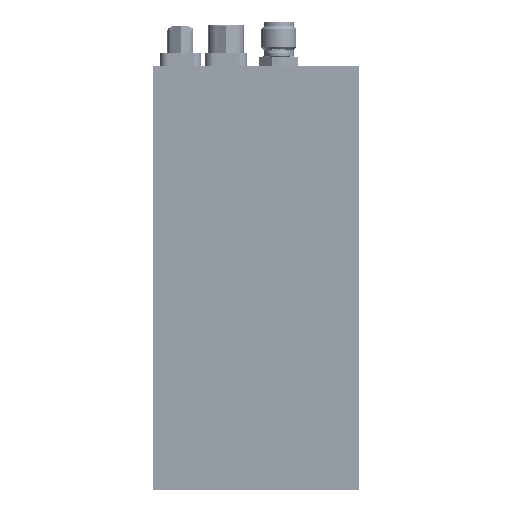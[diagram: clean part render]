
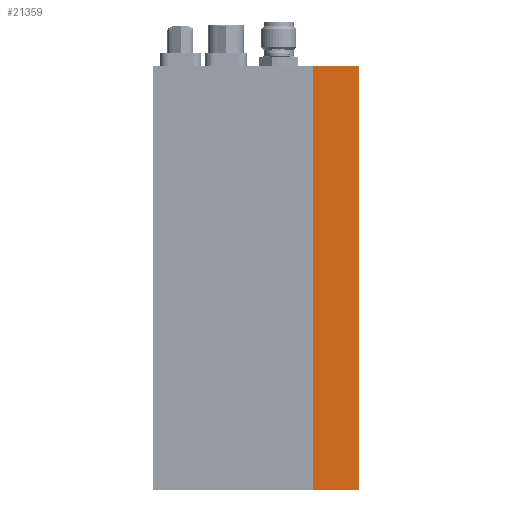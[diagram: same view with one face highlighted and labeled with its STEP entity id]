
A CAD part, left-side view. The second image highlights one B-rep face of the part: STEP entity #21359.
In plain terms, the highlighted planar face has unit normal (-1, 0, 0).
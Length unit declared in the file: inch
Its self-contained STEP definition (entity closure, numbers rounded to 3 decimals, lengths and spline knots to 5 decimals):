
#21359 = ADVANCED_FACE ( 'NONE', ( #97612 ), #114791, .F. ) ;
#38224 = LINE ( 'NONE', #47123, #38226 ) ;
#38226 = VECTOR ( 'NONE', #47127, 39.37008 ) ;
#38468 = LINE ( 'NONE', #48366, #38470 ) ;
#38470 = VECTOR ( 'NONE', #48371, 39.37008 ) ;
#38488 = VECTOR ( 'NONE', #48445, 39.37008 ) ;
#38497 = LINE ( 'NONE', #48440, #38488 ) ;
#47123 = CARTESIAN_POINT ( 'NONE',  ( -1., 0.328, -3. ) ) ;
#47127 = DIRECTION ( 'NONE',  ( 0., -1., 0. ) ) ;
#48366 = CARTESIAN_POINT ( 'NONE',  ( -1., 0., 0. ) ) ;
#48371 = DIRECTION ( 'NONE',  ( 0., 0., 1. ) ) ;
#48440 = CARTESIAN_POINT ( 'NONE',  ( -1., 0.328, 0. ) ) ;
#48445 = DIRECTION ( 'NONE',  ( 0., 0., 1. ) ) ;
#72590 = EDGE_CURVE ( 'NONE', #236987, #237069, #101834, .T. ) ;
#91884 = AXIS2_PLACEMENT_3D ( 'NONE', #114788, #114794, #114796 ) ;
#97612 = FACE_OUTER_BOUND ( 'NONE', #123262, .T. ) ;
#101834 = LINE ( 'NONE', #104766, #101837 ) ;
#101837 = VECTOR ( 'NONE', #104757, 39.37008 ) ;
#104757 = DIRECTION ( 'NONE',  ( 0., -1., 0. ) ) ;
#104766 = CARTESIAN_POINT ( 'NONE',  ( -1., 0.328, 0. ) ) ;
#114788 = CARTESIAN_POINT ( 'NONE',  ( -1., 0.328, 0. ) ) ;
#114791 = PLANE ( 'NONE',  #91884 ) ;
#114794 = DIRECTION ( 'NONE',  ( 1., 0., 0. ) ) ;
#114796 = DIRECTION ( 'NONE',  ( 0., 0., -1. ) ) ;
#123262 = EDGE_LOOP ( 'NONE', ( #156453, #156457, #156461, #156464 ) ) ;
#156453 = ORIENTED_EDGE ( 'NONE', *, *, #210824, .T. ) ;
#156457 = ORIENTED_EDGE ( 'NONE', *, *, #72590, .F. ) ;
#156461 = ORIENTED_EDGE ( 'NONE', *, *, #210828, .F. ) ;
#156464 = ORIENTED_EDGE ( 'NONE', *, *, #210746, .T. ) ;
#210746 = EDGE_CURVE ( 'NONE', #235985, #236484, #38224, .T. ) ;
#210824 = EDGE_CURVE ( 'NONE', #236484, #237069, #38468, .T. ) ;
#210828 = EDGE_CURVE ( 'NONE', #235985, #236987, #38497, .T. ) ;
#211991 = CARTESIAN_POINT ( 'NONE',  ( -1., 0.328, -3. ) ) ;
#212181 = CARTESIAN_POINT ( 'NONE',  ( -1., 0., -3. ) ) ;
#212237 = CARTESIAN_POINT ( 'NONE',  ( -1., 0.328, 0. ) ) ;
#212251 = CARTESIAN_POINT ( 'NONE',  ( -1., 0., 0. ) ) ;
#235985 = VERTEX_POINT ( 'NONE', #211991 ) ;
#236484 = VERTEX_POINT ( 'NONE', #212181 ) ;
#236987 = VERTEX_POINT ( 'NONE', #212237 ) ;
#237069 = VERTEX_POINT ( 'NONE', #212251 ) ;
